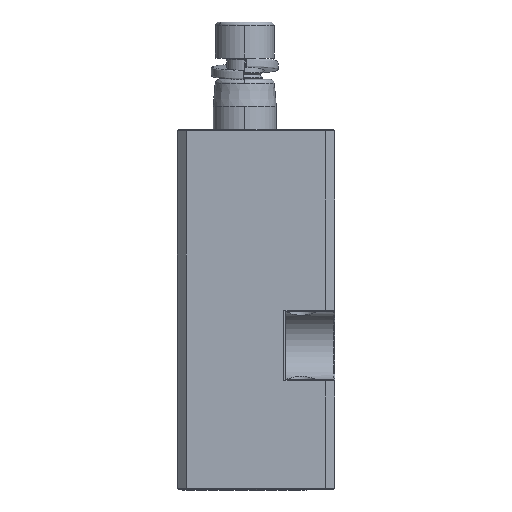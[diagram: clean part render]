
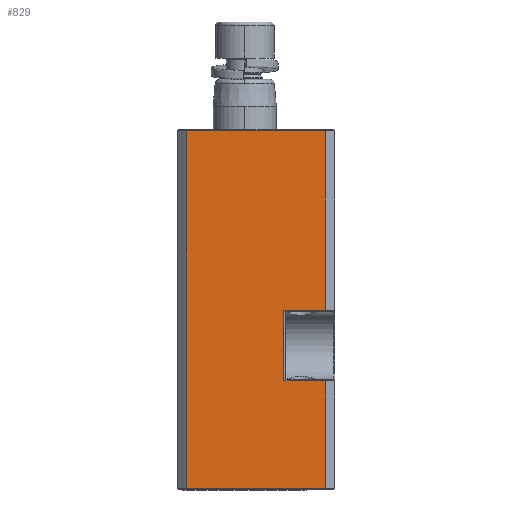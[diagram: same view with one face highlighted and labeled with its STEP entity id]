
A CAD part, front view. The second image highlights one B-rep face of the part: STEP entity #829.
In plain terms, the highlighted planar face has unit normal (0, -1, 0).
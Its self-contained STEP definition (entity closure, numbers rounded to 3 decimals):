
#147 = VERTEX_POINT ( 'NONE', #11278 ) ;
#237 = CARTESIAN_POINT ( 'NONE',  ( -13., -27.5, 79.7 ) ) ;
#514 = VECTOR ( 'NONE', #8945, 1000. ) ;
#594 = LINE ( 'NONE', #11108, #2629 ) ;
#687 = CARTESIAN_POINT ( 'NONE',  ( 18., -27.5, 0.3 ) ) ;
#829 = ADVANCED_FACE ( 'NONE', ( #16488 ), #18263, .T. ) ;
#1076 = EDGE_CURVE ( 'NONE', #6541, #147, #8489, .T. ) ;
#1362 = ORIENTED_EDGE ( 'NONE', *, *, #6686, .T. ) ;
#2206 = ORIENTED_EDGE ( 'NONE', *, *, #3451, .T. ) ;
#2629 = VECTOR ( 'NONE', #15453, 1000. ) ;
#2706 = EDGE_CURVE ( 'NONE', #11804, #3849, #3558, .T. ) ;
#2962 = EDGE_CURVE ( 'NONE', #4667, #11482, #10319, .T. ) ;
#3414 = CARTESIAN_POINT ( 'NONE',  ( -13., -27.5, 0.3 ) ) ;
#3451 = EDGE_CURVE ( 'NONE', #18774, #11804, #4966, .T. ) ;
#3558 = LINE ( 'NONE', #12723, #15414 ) ;
#3737 = CARTESIAN_POINT ( 'NONE',  ( 18., -27.5, 39.8 ) ) ;
#3849 = VERTEX_POINT ( 'NONE', #237 ) ;
#4186 = CARTESIAN_POINT ( 'NONE',  ( 18., -27.5, 79.7 ) ) ;
#4667 = VERTEX_POINT ( 'NONE', #3414 ) ;
#4685 = DIRECTION ( 'NONE',  ( 0., 0., 1. ) ) ;
#4778 = DIRECTION ( 'NONE',  ( 0., 0., -1. ) ) ;
#4966 = LINE ( 'NONE', #18168, #10379 ) ;
#5170 = LINE ( 'NONE', #7939, #17531 ) ;
#5259 = ORIENTED_EDGE ( 'NONE', *, *, #2962, .T. ) ;
#5663 = VECTOR ( 'NONE', #14852, 1000. ) ;
#6213 = CARTESIAN_POINT ( 'NONE',  ( -13., -27.5, -0.1 ) ) ;
#6456 = DIRECTION ( 'NONE',  ( 1., 0., 0. ) ) ;
#6541 = VERTEX_POINT ( 'NONE', #18785 ) ;
#6686 = EDGE_CURVE ( 'NONE', #147, #14051, #594, .T. ) ;
#7593 = DIRECTION ( 'NONE',  ( 0., 0., -1. ) ) ;
#7939 = CARTESIAN_POINT ( 'NONE',  ( -15., -27.5, 39.8 ) ) ;
#8489 = LINE ( 'NONE', #14490, #9718 ) ;
#8945 = DIRECTION ( 'NONE',  ( 0., 0., 1. ) ) ;
#9374 = ORIENTED_EDGE ( 'NONE', *, *, #2706, .T. ) ;
#9655 = DIRECTION ( 'NONE',  ( -1., 0., 0. ) ) ;
#9718 = VECTOR ( 'NONE', #19306, 1000. ) ;
#10313 = CARTESIAN_POINT ( 'NONE',  ( 18., -27.5, -0.1 ) ) ;
#10319 = LINE ( 'NONE', #11504, #5663 ) ;
#10379 = VECTOR ( 'NONE', #4685, 1000. ) ;
#11108 = CARTESIAN_POINT ( 'NONE',  ( 8.7, -27.5, -0.1 ) ) ;
#11278 = CARTESIAN_POINT ( 'NONE',  ( 8.7, -27.5, 24.2 ) ) ;
#11363 = EDGE_CURVE ( 'NONE', #11482, #6541, #18309, .T. ) ;
#11482 = VERTEX_POINT ( 'NONE', #687 ) ;
#11504 = CARTESIAN_POINT ( 'NONE',  ( -15., -27.5, 0.3 ) ) ;
#11692 = ORIENTED_EDGE ( 'NONE', *, *, #11363, .T. ) ;
#11804 = VERTEX_POINT ( 'NONE', #4186 ) ;
#12133 = ORIENTED_EDGE ( 'NONE', *, *, #16005, .T. ) ;
#12723 = CARTESIAN_POINT ( 'NONE',  ( -15., -27.5, 79.7 ) ) ;
#12849 = EDGE_LOOP ( 'NONE', ( #11692, #17180, #1362, #12133, #2206, #9374, #18105, #5259 ) ) ;
#13697 = LINE ( 'NONE', #6213, #15356 ) ;
#14051 = VERTEX_POINT ( 'NONE', #16547 ) ;
#14490 = CARTESIAN_POINT ( 'NONE',  ( -15., -27.5, 24.2 ) ) ;
#14852 = DIRECTION ( 'NONE',  ( 1., 0., 0. ) ) ;
#15356 = VECTOR ( 'NONE', #7593, 1000. ) ;
#15404 = CARTESIAN_POINT ( 'NONE',  ( -15., -27.5, -0.1 ) ) ;
#15414 = VECTOR ( 'NONE', #9655, 1000. ) ;
#15453 = DIRECTION ( 'NONE',  ( 0., 0., 1. ) ) ;
#16005 = EDGE_CURVE ( 'NONE', #14051, #18774, #5170, .T. ) ;
#16488 = FACE_OUTER_BOUND ( 'NONE', #12849, .T. ) ;
#16547 = CARTESIAN_POINT ( 'NONE',  ( 8.7, -27.5, 39.8 ) ) ;
#16657 = EDGE_CURVE ( 'NONE', #3849, #4667, #13697, .T. ) ;
#17180 = ORIENTED_EDGE ( 'NONE', *, *, #1076, .T. ) ;
#17531 = VECTOR ( 'NONE', #6456, 1000. ) ;
#18105 = ORIENTED_EDGE ( 'NONE', *, *, #16657, .T. ) ;
#18160 = DIRECTION ( 'NONE',  ( 0., -1., 0. ) ) ;
#18168 = CARTESIAN_POINT ( 'NONE',  ( 18., -27.5, -0.1 ) ) ;
#18263 = PLANE ( 'NONE',  #18830 ) ;
#18309 = LINE ( 'NONE', #10313, #514 ) ;
#18774 = VERTEX_POINT ( 'NONE', #3737 ) ;
#18785 = CARTESIAN_POINT ( 'NONE',  ( 18., -27.5, 24.2 ) ) ;
#18830 = AXIS2_PLACEMENT_3D ( 'NONE', #15404, #18160, #4778 ) ;
#19306 = DIRECTION ( 'NONE',  ( -1., 0., 0. ) ) ;
